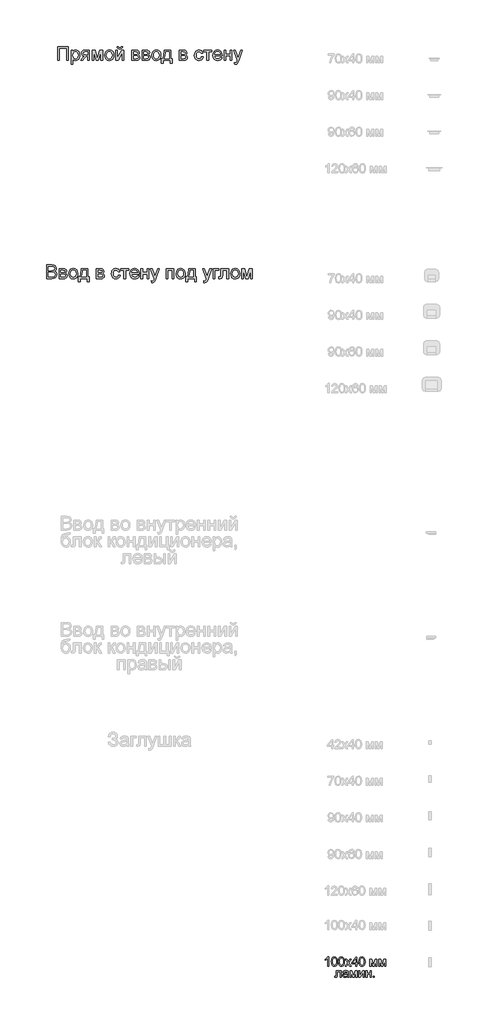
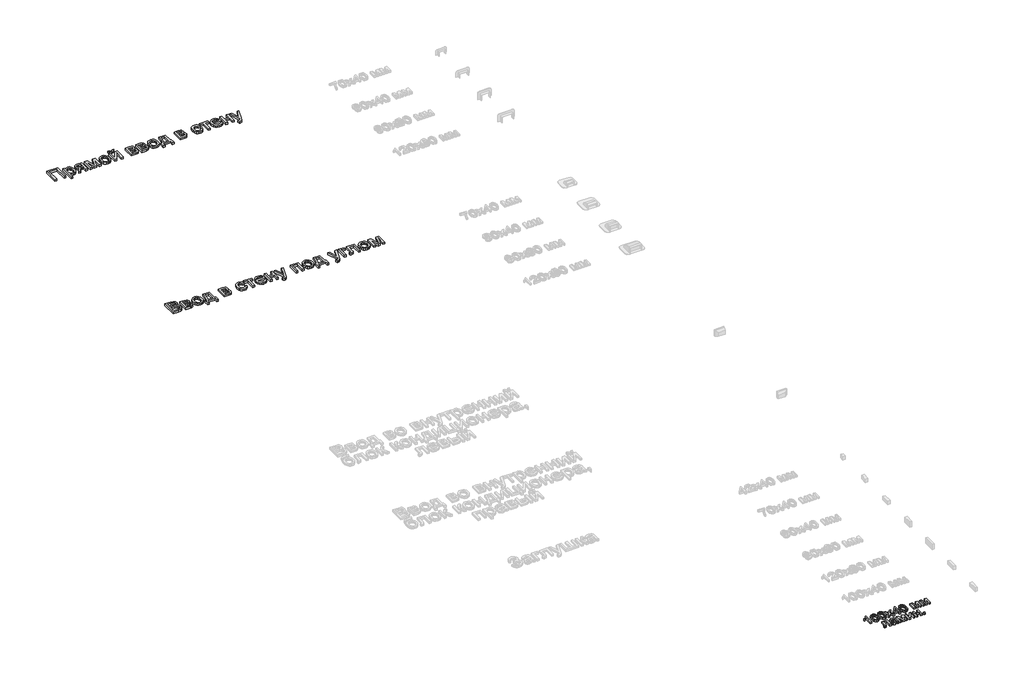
# One storey, part 19 of 21: 3 proxies.
"""IFC4 building model written with IfcOpenShell, lengths in millimetres."""

import ifcopenshell
import ifcopenshell.guid

model = None  # the IFC model being written
_history = None  # IfcOwnerHistory: only IFC2X3 demands one
_inside = {}  # id of a spatial element -> (the spatial element, [elements in it])
_under = {}  # id of a project, library or spatial element -> (it, [spatial elements below it])
_declared = {}  # id of a project -> (the project, [libraries it declares])
_typed = {}  # id of a type object -> (the type object, [elements of that type])
_made_of = {}  # id of a material, layer set ... -> (it, [elements and type objects made of it])


def new_model(schema):
    """Start an empty IFC model of exactly this schema.

    Asked for "IFC4X3", IfcOpenShell would pick the latest addendum, in which some entities
    have other attributes; the version numbers below select the first issue.
    IFC2X3 requires an IfcOwnerHistory on every rooted entity: one is made here for all.
    """
    global model, _history
    if schema == "IFC4X3":
        model = ifcopenshell.file(schema_version=(4, 3, 0, 0))
    else:
        model = ifcopenshell.file(schema=schema)
    _inside.clear()
    _under.clear()
    _declared.clear()
    _typed.clear()
    _made_of.clear()
    _history = None
    if model.schema == "IFC2X3":
        org = make("IfcOrganization", Name="unknown")
        user = make(
            "IfcPersonAndOrganization",
            ThePerson=make("IfcPerson", FamilyName="unknown"),
            TheOrganization=org,
        )
        app = make(
            "IfcApplication",
            ApplicationDeveloper=org,
            Version="unknown",
            ApplicationFullName="unknown",
            ApplicationIdentifier="unknown",
        )
        _history = make(
            "IfcOwnerHistory",
            OwningUser=user,
            OwningApplication=app,
            ChangeAction="ADDED",
            CreationDate=0,
        )
    return model


def make(cls, **values):
    """One entity of the class cls with the attributes given. An attribute that is None is left unset."""
    return model.create_entity(
        cls, **{name: value for name, value in values.items() if value is not None}
    )


def rooted(cls, **values):
    """An entity with a GlobalId (a new one), such as an element, a storey or a relation."""
    return make(cls, GlobalId=ifcopenshell.guid.new(), OwnerHistory=_history, **values)


def si_unit(unit_type, name, prefix=None):
    """IfcSIUnit, for example si_unit("LENGTHUNIT", "METRE", prefix="MILLI")."""
    return make("IfcSIUnit", UnitType=unit_type, Prefix=prefix, Name=name)


def assignment(units):
    """IfcUnitAssignment: the units of a project."""
    return None if units is None else make("IfcUnitAssignment", Units=units)


def point(xyz):
    """IfcCartesianPoint."""
    return None if xyz is None else make("IfcCartesianPoint", Coordinates=xyz)


def direction(xyz):
    """IfcDirection."""
    return None if xyz is None else make("IfcDirection", DirectionRatios=xyz)


def frame(location, z_axis=None, x_axis=None):
    """IfcAxis2Placement3D, a coordinate frame: its origin and axes. An axis left out is left unset."""
    return make(
        "IfcAxis2Placement3D",
        Location=point(location),
        Axis=direction(z_axis),
        RefDirection=direction(x_axis),
    )


def origin():
    """The frame at (0, 0, 0) with its axes left unset."""
    return frame((0.0, 0.0, 0.0))


def origin_with_axes():
    """The frame at (0, 0, 0) with the z axis (0, 0, 1) and the x axis (1, 0, 0) written out."""
    return frame((0.0, 0.0, 0.0), z_axis=(0.0, 0.0, 1.0), x_axis=(1.0, 0.0, 0.0))


def place(relative_to, where):
    """IfcLocalPlacement: puts the frame where relative to a parent placement (None: the world)."""
    return make(
        "IfcLocalPlacement", PlacementRelTo=relative_to, RelativePlacement=where
    )


def context(
    kind, dimensions, precision=None, world=None, true_north=None, identifier=None
):
    """IfcGeometricRepresentationContext, for example the 3D "Model" context."""
    return make(
        "IfcGeometricRepresentationContext",
        ContextIdentifier=identifier,
        ContextType=kind,
        CoordinateSpaceDimension=dimensions,
        Precision=precision,
        WorldCoordinateSystem=world,
        TrueNorth=true_north,
    )


def project(units=None, contexts=None):
    """IfcProject with its units and contexts."""
    return rooted(
        "IfcProject",
        Name="project",
        RepresentationContexts=contexts,
        UnitsInContext=assignment(units),
    )


def spatial(cls, under=None, at=None, **own):
    """A site, building, storey or space (cls), placed at a placement, below another one or the project."""
    s = rooted(cls, ObjectPlacement=at, **own)
    if under is not None:
        _under.setdefault(under.id(), (under, []))[1].append(s)
    return s


def polyline(points):
    """IfcPolyline through the points."""
    return make("IfcPolyline", Points=[point(p) for p in points])


def outline(outer, holes=None, kind="AREA"):
    """IfcArbitraryClosedProfileDef: a profile drawn as a closed curve; with holes, ...WithVoids."""
    if holes is None:
        return make("IfcArbitraryClosedProfileDef", ProfileType=kind, OuterCurve=outer)
    return make(
        "IfcArbitraryProfileDefWithVoids",
        ProfileType=kind,
        OuterCurve=outer,
        InnerCurves=holes,
    )


def extrude(swept, where, along, depth):
    """IfcExtrudedAreaSolid: the profile swept, set in the frame where, extruded along a direction by depth."""
    return make(
        "IfcExtrudedAreaSolid",
        SweptArea=swept,
        Position=where,
        ExtrudedDirection=direction(along),
        Depth=depth,
    )


def shape(context_of_items, identifier, shape_type, items):
    """IfcShapeRepresentation: the items that make up one representation, for example the "Body"."""
    return make(
        "IfcShapeRepresentation",
        ContextOfItems=context_of_items,
        RepresentationIdentifier=identifier,
        RepresentationType=shape_type,
        Items=items,
    )


def made_of(thing, what):
    """Note that an element or type object is made of a material, layer set ...; save() writes the relation."""
    if what is not None:
        _made_of.setdefault(what.id(), (what, []))[1].append(thing)
    return thing


def element(
    cls,
    number,
    at=None,
    inside=None,
    cuts=None,
    type_object=None,
    material=None,
    context=None,
    identifier="Body",
    shape_type=None,
    held_by="IfcProductDefinitionShape",
    body=None,
    shapes=None,
    **own,
):
    """One element of the class cls, such as IfcWall. Its Tag is "e" and its number.

    at: its placement. inside: the storey or other place that contains it. cuts: it is an
    opening in that element (IfcRelVoidsElement). A single representation is given by context,
    identifier, shape_type and body (its items); several are given by shapes. held_by: the class
    of the entity that holds the representations. save() writes the other relations.
    """
    e = rooted(cls, Tag="e%d" % number, ObjectPlacement=at, **own)
    if body is not None:
        shapes = [shape(context, identifier, shape_type, body)]
    if shapes is not None:
        e.Representation = make(held_by, Representations=shapes)
    if inside is not None:
        _inside.setdefault(inside.id(), (inside, []))[1].append(e)
    if cuts is not None:
        rooted(
            "IfcRelVoidsElement", RelatingBuildingElement=cuts, RelatedOpeningElement=e
        )
    if type_object is not None:
        _typed.setdefault(type_object.id(), (type_object, []))[1].append(e)
    return made_of(e, material)


def aggregate(whole, parts):
    """IfcRelAggregates: a whole, such as a stair, and the parts it consists of."""
    return rooted("IfcRelAggregates", RelatingObject=whole, RelatedObjects=parts)


def save(model, path):
    """Write the relations noted so far, then the file.

    IfcRelAggregates (storeys below a building ...), IfcRelContainedInSpatialStructure (elements
    in a storey), IfcRelDefinesByType, IfcRelAssociatesMaterial and IfcRelDeclares: one each for
    every whole, place, type object, material and project.
    """
    for whole, parts in _under.values():
        aggregate(whole, parts)
    for where, things in _inside.values():
        rooted(
            "IfcRelContainedInSpatialStructure",
            RelatedElements=things,
            RelatingStructure=where,
        )
    for kind, things in _typed.values():
        rooted("IfcRelDefinesByType", RelatedObjects=things, RelatingType=kind)
    for what, things in _made_of.values():
        rooted("IfcRelAssociatesMaterial", RelatedObjects=things, RelatingMaterial=what)
    for by, libraries in _declared.values():
        rooted("IfcRelDeclares", RelatingContext=by, RelatedDefinitions=libraries)
    model.write(path)


model = new_model("IFC4")

# Units and contexts
model_context = context("Model", 3, world=origin())
ifc_project = project(units=[si_unit("LENGTHUNIT", "METRE", prefix="MILLI")], contexts=[model_context])

# Site, building, storey
site = spatial("IfcSite", under=ifc_project)
building = spatial("IfcBuilding", under=site)
storey = spatial("IfcBuildingStorey", under=building, Name="Этаж 01", Elevation=0.0)

# Proxies
placement = place(None, origin())
element("IfcBuildingElementProxy", 1, Name="150 мм Arial", ObjectType="150 мм Arial", at=placement, inside=storey, context=model_context, shape_type="SweptSolid", body=[
    extrude(outline(polyline([(28871.880401, -2403.7985509), (28989.6026395, -2403.7985509), (28989.6026395, -2554.4830162), (28970.7670813, -2554.4830162), (28970.7670813, -2422.6341091), (28890.7159592, -2422.6341091), (28890.7159592, -2554.4830162), (28871.880401, -2554.4830162), (28871.880401, -2403.7985509)])), origin_with_axes(), (0.0, 0.0, 1.0), 20.0),
    extrude(outline(polyline([(29020.2104215, -2596.863022), (29020.2104215, -2443.824112), (29039.0459796, -2443.824112), (29039.0459796, -2462.2917882), (29052.0690023, -2446.6751975), (29069.6537616, -2441.4696672), (29082.3916757, -2443.2906831), (29093.5293031, -2448.7537307), (29102.5975943, -2457.5277163), (29109.1274997, -2469.2815461), (29114.3882122, -2498.3074355), (29112.9028887, -2514.4160684), (29108.446918, -2528.823247), (29101.1628545, -2540.7978059), (29091.1932524, -2549.6085797), (29079.581977, -2555.0302406), (29067.3728932, -2556.8374609), (29050.9837504, -2551.9998127), (29039.0459796, -2539.7677364), (29039.0459796, -2596.863022), (29020.2104215, -2596.863022)]), holes=[polyline([(29039.0459796, -2500.0364809), (29041.0831262, -2516.9222645), (29047.1945658, -2528.7312765), (29056.2122732, -2535.6842462), (29066.9682231, -2538.0019028), (29077.8989168, -2535.6014728), (29087.1465505, -2528.4001827), (29093.4511282, -2516.1589093), (29095.5526541, -2498.6385293), (29093.501712, -2481.8447162), (29087.3488856, -2469.8701573), (29078.3449738, -2462.6964584), (29067.7407752, -2460.3052254), (29057.09519, -2462.8482097), (29047.7463888, -2470.4771626), (29041.2210819, -2482.9529607), (29039.0459796, -2500.0364809)])]), origin_with_axes(), (0.0, 0.0, 1.0), 20.0),
    extrude(outline(polyline([(29220.3382268, -2443.824112), (29220.3382268, -2554.4830162), (29201.5026687, -2554.4830162), (29201.5026687, -2512.1030103), (29191.238761, -2512.1030103), (29177.2592452, -2514.4942433), (29164.125858, -2530.5706865), (29149.1162726, -2554.4830162), (29127.3376585, -2554.4830162), (29146.246793, -2524.2431162), (29154.5977143, -2513.3905973), (29162.286448, -2508.5713432), (29149.4105782, -2504.6258088), (29140.3606811, -2497.1302131), (29135.0079981, -2487.160611), (29133.2237704, -2475.7930574), (29135.6609886, -2462.8987935), (29142.9726433, -2452.6900681), (29154.901217, -2446.040601), (29171.1891923, -2443.824112), (29220.3382268, -2443.824112)]), holes=[polyline([(29201.5026687, -2462.6596702), (29176.670634, -2462.6596702), (29163.845348, -2463.7495206), (29156.565883, -2467.0190718), (29152.0593285, -2477.2277972), (29153.719396, -2484.4060946), (29158.6995986, -2489.3862971), (29182.2256521, -2493.2674522), (29201.5026687, -2493.2674522), (29201.5026687, -2462.6596702)])]), origin_with_axes(), (0.0, 0.0, 1.0), 20.0),
    extrude(outline(polyline([(29248.5915641, -2443.824112), (29281.0019678, -2443.824112), (29305.9811553, -2532.4100964), (29332.9101174, -2443.824112), (29363.9593578, -2443.824112), (29363.9593578, -2554.4830162), (29345.1237996, -2554.4830162), (29345.1237996, -2465.3819969), (29318.0476848, -2554.4830162), (29293.3260147, -2554.4830162), (29267.4271222, -2461.1145658), (29267.4271222, -2554.4830162), (29248.5915641, -2554.4830162), (29248.5915641, -2443.824112)])), origin_with_axes(), (0.0, 0.0, 1.0), 20.0),
    extrude(outline(polyline([(29387.5038055, -2499.1535641), (29391.5780985, -2472.4729224), (29403.8009778, -2453.7201377), (29418.9025337, -2444.5322848), (29436.9839338, -2441.4696672), (29456.7713866, -2445.199071), (29472.5765168, -2456.3872821), (29482.9369935, -2474.151384), (29486.3904858, -2497.6084597), (29484.8637755, -2516.6371559), (29480.2836446, -2531.1225095), (29472.7834505, -2541.9704298), (29462.4965502, -2550.0868263), (29450.2782694, -2555.1498023), (29436.9839338, -2556.8374609), (29416.9573577, -2553.1218528), (29401.1706216, -2541.9750283), (29390.9205095, -2523.838446), (29387.5038055, -2499.1535641)]), holes=[polyline([(29406.3393636, -2499.1167759), (29408.5190644, -2516.1635078), (29415.0581669, -2528.3082122), (29424.8990103, -2535.5784801), (29436.9839338, -2538.0019028), (29449.013675, -2535.5646846), (29458.8361243, -2528.2530299), (29465.3752268, -2515.9473772), (29467.5549276, -2498.5281647), (29465.3614312, -2481.9780734), (29458.780942, -2469.998916), (29448.9446972, -2462.728648), (29436.9839338, -2460.3052254), (29424.8990103, -2462.719451), (29415.0581669, -2469.9621278), (29408.5190644, -2482.079241), (29406.3393636, -2499.1167759)])]), origin_with_axes(), (0.0, 0.0, 1.0), 20.0),
    extrude(outline(polyline([(29507.5804887, -2443.824112), (29526.4160468, -2443.824112), (29526.4160468, -2528.2162417), (29572.6956018, -2443.824112), (29597.0493899, -2443.824112), (29597.0493899, -2554.4830162), (29578.2138318, -2554.4830162), (29578.2138318, -2470.6059213), (29532.2285824, -2554.4830162), (29507.5804887, -2554.4830162), (29507.5804887, -2443.824112)])), origin_with_axes(), (0.0, 0.0, 1.0), 20.0),
    extrude(outline(polyline([(29568.7960527, -2403.7985509), (29582.9227213, -2403.7985509), (29579.8830963, -2415.8604819), (29573.7808537, -2424.7494306), (29564.891905, -2430.2262738), (29553.4921617, -2432.0518882), (29541.1221296, -2430.2400693), (29531.5296066, -2424.8046129), (29524.97211, -2415.9294597), (29521.7071573, -2403.7985509), (29535.8338259, -2403.7985509), (29541.1313266, -2414.4119465), (29551.7999045, -2417.9252195), (29563.4985519, -2414.5223111), (29568.7960527, -2403.7985509)])), origin_with_axes(), (0.0, 0.0, 1.0), 20.0),
    extrude(outline(polyline([(29684.1638464, -2443.824112), (29725.6609354, -2443.824112), (29748.4144368, -2446.3441037), (29761.2167303, -2455.5779418), (29766.5694133, -2471.672779), (29763.3320517, -2484.750984), (29753.5831789, -2494.0767925), (29766.2383195, -2504.2855179), (29771.2783028, -2522.0358242), (29768.0869265, -2536.392419), (29760.4993604, -2546.4999769), (29748.4880132, -2552.4872563), (29732.0252939, -2554.4830162), (29684.1638464, -2554.4830162), (29684.1638464, -2443.824112)]), holes=[polyline([(29702.9994045, -2486.2041179), (29721.6142335, -2486.2041179), (29736.9733068, -2485.2476247), (29744.4413113, -2481.4216519), (29747.7338551, -2474.5054704), (29746.2899183, -2468.8860729), (29741.9581078, -2465.2716323), (29722.2028447, -2462.6596702), (29702.9994045, -2462.6596702), (29702.9994045, -2486.2041179)]), polyline([(29702.9994045, -2535.647458), (29726.1023938, -2535.647458), (29746.5934209, -2532.2445495), (29750.8332609, -2527.6046379), (29752.4427447, -2520.4907198), (29749.2237772, -2511.4224286), (29740.8360677, -2506.143322), (29724.2629838, -2505.039676), (29702.9994045, -2505.039676), (29702.9994045, -2535.647458)])]), origin_with_axes(), (0.0, 0.0, 1.0), 20.0),
    extrude(outline(polyline([(29794.8227505, -2443.824112), (29836.3198396, -2443.824112), (29859.073341, -2446.3441037), (29871.8756344, -2455.5779418), (29877.2283174, -2471.672779), (29873.9909559, -2484.750984), (29864.242083, -2494.0767925), (29876.8972236, -2504.2855179), (29881.937207, -2522.0358242), (29878.7458307, -2536.392419), (29871.1582645, -2546.4999769), (29859.1469174, -2552.4872563), (29842.6841981, -2554.4830162), (29794.8227505, -2554.4830162), (29794.8227505, -2443.824112)]), holes=[polyline([(29813.6583087, -2535.647458), (29836.761298, -2535.647458), (29857.2523251, -2532.2445495), (29861.4921651, -2527.6046379), (29863.1016488, -2520.4907198), (29859.8826814, -2511.4224286), (29851.4949719, -2506.143322), (29834.921888, -2505.039676), (29813.6583087, -2505.039676), (29813.6583087, -2535.647458)]), polyline([(29813.6583087, -2486.2041179), (29832.2731376, -2486.2041179), (29847.6322109, -2485.2476247), (29855.1002154, -2481.4216519), (29858.3927593, -2474.5054704), (29856.9488224, -2468.8860729), (29852.617012, -2465.2716323), (29832.8617488, -2462.6596702), (29813.6583087, -2462.6596702), (29813.6583087, -2486.2041179)])]), origin_with_axes(), (0.0, 0.0, 1.0), 20.0),
    extrude(outline(polyline([(29900.7727651, -2499.1535641), (29904.8470582, -2472.4729224), (29917.0699375, -2453.7201377), (29932.1714934, -2444.5322848), (29950.2528935, -2441.4696672), (29970.0403463, -2445.199071), (29985.8454765, -2456.3872821), (29996.2059532, -2474.151384), (29999.6594454, -2497.6084597), (29998.1327351, -2516.6371559), (29993.5526043, -2531.1225095), (29986.0524101, -2541.9704298), (29975.7655098, -2550.0868263), (29963.5472291, -2555.1498023), (29950.2528935, -2556.8374609), (29930.2263174, -2553.1218528), (29914.4395812, -2541.9750283), (29904.1894692, -2523.838446), (29900.7727651, -2499.1535641)]), holes=[polyline([(29919.6083233, -2499.1167759), (29921.7880241, -2516.1635078), (29928.3271266, -2528.3082122), (29938.1679699, -2535.5784801), (29950.2528935, -2538.0019028), (29962.2826347, -2535.5646846), (29972.105084, -2528.2530299), (29978.6441865, -2515.9473772), (29980.8238873, -2498.5281647), (29978.6303909, -2481.9780734), (29972.0499017, -2469.998916), (29962.2136568, -2462.728648), (29950.2528935, -2460.3052254), (29938.1679699, -2462.719451), (29928.3271266, -2469.9621278), (29921.7880241, -2482.079241), (29919.6083233, -2499.1167759)])]), origin_with_axes(), (0.0, 0.0, 1.0), 20.0),
    extrude(outline(polyline([(30037.3305617, -2443.824112), (30107.9639048, -2443.824112), (30107.9639048, -2535.647458), (30122.0905734, -2535.647458), (30122.0905734, -2585.0907982), (30103.2550153, -2585.0907982), (30103.2550153, -2554.4830162), (30025.5583379, -2554.4830162), (30025.5583379, -2585.0907982), (30006.7227797, -2585.0907982), (30006.7227797, -2535.647458), (30018.4950036, -2535.647458), (30027.0528585, -2520.1826186), (30033.0447365, -2499.7237812), (30037.3305617, -2443.824112)]), holes=[polyline([(30053.8116751, -2462.6596702), (30049.3970912, -2505.5731049), (30039.6850065, -2535.647458), (30089.1283467, -2535.647458), (30089.1283467, -2462.6596702), (30053.8116751, -2462.6596702)])]), origin_with_axes(), (0.0, 0.0, 1.0), 20.0),
    extrude(outline(polyline([(30202.1416956, -2443.824112), (30243.6387846, -2443.824112), (30266.392286, -2446.3441037), (30279.1945795, -2455.5779418), (30284.5472625, -2471.672779), (30281.3099009, -2484.750984), (30271.5610281, -2494.0767925), (30284.2161687, -2504.2855179), (30289.256152, -2522.0358242), (30286.0647757, -2536.392419), (30278.4772096, -2546.4999769), (30266.4658624, -2552.4872563), (30250.0031431, -2554.4830162), (30202.1416956, -2554.4830162), (30202.1416956, -2443.824112)]), holes=[polyline([(30220.9772537, -2486.2041179), (30239.5920827, -2486.2041179), (30254.951156, -2485.2476247), (30262.4191605, -2481.4216519), (30265.7117043, -2474.5054704), (30264.2677675, -2468.8860729), (30259.935957, -2465.2716323), (30240.1806939, -2462.6596702), (30220.9772537, -2462.6596702), (30220.9772537, -2486.2041179)]), polyline([(30220.9772537, -2535.647458), (30244.080243, -2535.647458), (30264.5712702, -2532.2445495), (30268.8111101, -2527.6046379), (30270.4205939, -2520.4907198), (30267.2016264, -2511.4224286), (30258.8139169, -2506.143322), (30242.240833, -2505.039676), (30220.9772537, -2505.039676), (30220.9772537, -2535.647458)])]), origin_with_axes(), (0.0, 0.0, 1.0), 20.0),
    extrude(outline(polyline([(30442.295062, -2514.4574551), (30461.1306202, -2516.8118999), (30455.8791047, -2533.5643262), (30446.0106702, -2546.2240654), (30432.4542187, -2554.184112), (30416.1386522, -2556.8374609), (30396.102879, -2553.1356484), (30380.4357045, -2542.0302106), (30370.3235482, -2524.0085914), (30366.9528294, -2499.5582343), (30368.3921677, -2482.7966109), (30372.7101826, -2468.2698706), (30379.975852, -2456.5390335), (30390.2581538, -2448.1651196), (30402.559208, -2443.1435303), (30415.8811348, -2441.4696672), (30431.7966296, -2443.7689297), (30444.5207481, -2450.6667171), (30453.6488201, -2461.7951475), (30458.7761754, -2476.7863388), (30439.9406173, -2479.1407835), (30431.2034199, -2465.032509), (30416.0282876, -2460.3052254), (30403.8559921, -2462.632079), (30394.1944912, -2469.6126399), (30387.8899135, -2481.623987), (30385.7883876, -2499.0431995), (30387.8439282, -2516.6969367), (30394.0105502, -2528.7496706), (30403.4973071, -2535.6888447), (30415.5132528, -2538.0019028), (30425.2667242, -2536.5579659), (30433.263559, -2532.2261554), (30439.0806931, -2524.8961067), (30442.295062, -2514.4574551)])), origin_with_axes(), (0.0, 0.0, 1.0), 20.0),
    extrude(outline(polyline([(30468.1939545, -2443.824112), (30557.6628557, -2443.824112), (30557.6628557, -2462.6596702), (30522.3461842, -2462.6596702), (30522.3461842, -2554.4830162), (30503.510626, -2554.4830162), (30503.510626, -2462.6596702), (30468.1939545, -2462.6596702), (30468.1939545, -2443.824112)])), origin_with_axes(), (0.0, 0.0, 1.0), 20.0),
    extrude(outline(polyline([(30651.6199173, -2521.5207894), (30670.0875934, -2523.8752342), (30663.4335278, -2537.7903706), (30652.8155338, -2548.192234), (30638.4727345, -2554.6761542), (30620.6442533, -2556.8374609), (30598.5437424, -2553.1080572), (30581.5383972, -2541.919846), (30570.6950754, -2523.9993943), (30567.0806348, -2500.0732691), (30570.7318636, -2475.3424019), (30581.68555, -2456.8471346), (30598.460969, -2445.3140341), (30619.5773955, -2441.4696672), (30640.036233, -2445.304837), (30656.3839891, -2456.8103464), (30667.1031508, -2475.2688255), (30670.6762046, -2499.9629045), (30670.56584, -2505.039676), (30585.9161929, -2505.039676), (30589.1765471, -2519.1387535), (30596.7503177, -2529.5038287), (30607.6810115, -2535.8773843), (30621.0121353, -2538.0019028), (30639.4798114, -2534.0655654), (30651.6199173, -2521.5207894)]), holes=[polyline([(30585.9161929, -2486.2041179), (30651.8406465, -2486.2041179), (30649.2930637, -2476.2529099), (30644.2990656, -2469.1343933), (30633.317788, -2462.5125174), (30619.5038191, -2460.3052254), (30606.8072917, -2462.0664604), (30596.3088593, -2467.3501656), (30589.0110002, -2475.5861238), (30585.9161929, -2486.2041179)])]), origin_with_axes(), (0.0, 0.0, 1.0), 20.0),
    extrude(outline(polyline([(30689.5117628, -2443.824112), (30708.3473209, -2443.824112), (30708.3473209, -2486.2041179), (30757.7906611, -2486.2041179), (30757.7906611, -2443.824112), (30776.6262192, -2443.824112), (30776.6262192, -2554.4830162), (30757.7906611, -2554.4830162), (30757.7906611, -2505.039676), (30708.3473209, -2505.039676), (30708.3473209, -2554.4830162), (30689.5117628, -2554.4830162), (30689.5117628, -2443.824112)])), origin_with_axes(), (0.0, 0.0, 1.0), 20.0),
    extrude(outline(polyline([(30804.8795565, -2596.863022), (30802.5251117, -2578.7264396), (30812.0900436, -2580.3819086), (30821.0295761, -2578.3033753), (30826.5110178, -2572.5092339), (30831.6613657, -2558.6400827), (30833.1328937, -2554.078346), (30793.1073326, -2443.824112), (30812.9729604, -2443.824112), (30834.1997515, -2505.2604052), (30841.5941796, -2529.8349225), (30848.9886077, -2508.1298848), (30870.80401, -2443.824112), (30890.5224849, -2443.824112), (30852.0052401, -2557.1317665), (30841.9988498, -2581.7062838), (30831.0727545, -2594.9868238), (30816.3942629, -2599.2174668), (30804.8795565, -2596.863022)])), origin_with_axes(), (0.0, 0.0, 1.0), 20.0),
])
element("IfcBuildingElementProxy", 2, Name="150 мм Arial", ObjectType="150 мм Arial", at=placement, inside=storey, context=model_context, shape_type="SweptSolid", body=[
    extrude(outline(polyline([(28751.8037178, -4938.5806907), (28751.8037178, -4787.8962255), (28809.3036736, -4787.8962255), (28837.4650404, -4792.3292035), (28846.9288047, -4797.9531995), (28854.0933065, -4805.9592314), (28860.1081772, -4825.236248), (28855.0497997, -4842.8394015), (28839.7643028, -4856.1751238), (28850.4374792, -4861.748536), (28858.3239495, -4870.228216), (28863.1937874, -4881.0531437), (28864.8170667, -4893.6622991), (28860.3840887, -4913.9142029), (28849.4028111, -4928.3351771), (28833.0136682, -4935.9871226), (28808.8622152, -4938.5806907), (28751.8037178, -4938.5806907)]), holes=[polyline([(28770.6392759, -4849.1117895), (28805.0362425, -4849.1117895), (28825.1225994, -4847.4931087), (28837.207523, -4840.5217449), (28841.272619, -4828.2528803), (28837.4834345, -4815.9656217), (28826.6309156, -4808.6999523), (28802.4242803, -4806.7317836), (28770.6392759, -4806.7317836), (28770.6392759, -4849.1117895)]), polyline([(28770.6392759, -4919.7451325), (28809.2668854, -4919.7451325), (28823.2464013, -4919.0093686), (28835.0738074, -4914.9074843), (28842.9096939, -4906.5381689), (28845.9815086, -4893.8462401), (28842.376265, -4879.2045367), (28830.6960117, -4870.4673393), (28807.4274755, -4867.9473476), (28770.6392759, -4867.9473476), (28770.6392759, -4919.7451325)])]), origin_with_axes(), (0.0, 0.0, 1.0), 20.0),
    extrude(outline(polyline([(28888.3615144, -4827.9217865), (28929.8586035, -4827.9217865), (28952.6121049, -4830.4417782), (28965.4143983, -4839.6756163), (28970.7670813, -4855.7704536), (28967.5297198, -4868.8486585), (28957.7808469, -4878.1744671), (28970.4359875, -4888.3831925), (28975.4759709, -4906.1334987), (28972.2845945, -4920.4900936), (28964.6970284, -4930.5976514), (28952.6856813, -4936.5849309), (28936.222962, -4938.5806907), (28888.3615144, -4938.5806907), (28888.3615144, -4827.9217865)]), holes=[polyline([(28907.1970725, -4870.3017924), (28925.8119015, -4870.3017924), (28941.1709748, -4869.3452992), (28948.6389793, -4865.5193265), (28951.9315232, -4858.6031449), (28950.4875863, -4852.9837475), (28946.1557758, -4849.3693069), (28926.4005127, -4846.7573447), (28907.1970725, -4846.7573447), (28907.1970725, -4870.3017924)]), polyline([(28907.1970725, -4919.7451325), (28930.3000618, -4919.7451325), (28950.791089, -4916.3422241), (28955.030929, -4911.7023124), (28956.6404127, -4904.5883943), (28953.4214452, -4895.5201032), (28945.0337358, -4890.2409965), (28928.4606519, -4889.1373505), (28907.1970725, -4889.1373505), (28907.1970725, -4919.7451325)])]), origin_with_axes(), (0.0, 0.0, 1.0), 20.0),
    extrude(outline(polyline([(28994.311529, -4883.2512386), (28998.3858221, -4856.5705969), (29010.6087014, -4837.8178122), (29025.7102573, -4828.6299594), (29043.7916574, -4825.5673418), (29063.5791102, -4829.2967455), (29079.3842404, -4840.4849567), (29089.7447171, -4858.2490585), (29093.1982093, -4881.7061342), (29091.671499, -4900.7348304), (29087.0913682, -4915.220184), (29079.591174, -4926.0681043), (29069.3042737, -4934.1845009), (29057.085993, -4939.2474768), (29043.7916574, -4940.9351355), (29023.7650812, -4937.2195273), (29007.9783451, -4926.0727029), (28997.728233, -4907.9361205), (28994.311529, -4883.2512386)]), holes=[polyline([(29013.1470872, -4883.2144504), (29015.326788, -4900.2611824), (29021.8658904, -4912.4058867), (29031.7067338, -4919.6761547), (29043.7916574, -4922.0995773), (29055.8213986, -4919.6623591), (29065.6438479, -4912.3507044), (29072.1829503, -4900.0450517), (29074.3626512, -4882.6258392), (29072.1691548, -4866.075748), (29065.5886656, -4854.0965905), (29055.7524207, -4846.8263226), (29043.7916574, -4844.4028999), (29031.7067338, -4846.8171255), (29021.8658904, -4854.0598023), (29015.326788, -4866.1769155), (29013.1470872, -4883.2144504)])]), origin_with_axes(), (0.0, 0.0, 1.0), 20.0),
    extrude(outline(polyline([(29130.8693256, -4827.9217865), (29201.5026687, -4827.9217865), (29201.5026687, -4919.7451325), (29215.6293373, -4919.7451325), (29215.6293373, -4969.1884727), (29196.7937792, -4969.1884727), (29196.7937792, -4938.5806907), (29119.0971018, -4938.5806907), (29119.0971018, -4969.1884727), (29100.2615436, -4969.1884727), (29100.2615436, -4919.7451325), (29112.0337675, -4919.7451325), (29120.5916224, -4904.2802932), (29126.5835004, -4883.8214557), (29130.8693256, -4827.9217865)]), holes=[polyline([(29147.350439, -4846.7573447), (29142.9358551, -4889.6707794), (29133.2237704, -4919.7451325), (29182.6671105, -4919.7451325), (29182.6671105, -4846.7573447), (29147.350439, -4846.7573447)])]), origin_with_axes(), (0.0, 0.0, 1.0), 20.0),
    extrude(outline(polyline([(29295.6804595, -4827.9217865), (29337.1775485, -4827.9217865), (29359.9310499, -4830.4417782), (29372.7333433, -4839.6756163), (29378.0860264, -4855.7704536), (29374.8486648, -4868.8486585), (29365.0997919, -4878.1744671), (29377.7549326, -4888.3831925), (29382.7949159, -4906.1334987), (29379.6035396, -4920.4900936), (29372.0159735, -4930.5976514), (29360.0046263, -4936.5849309), (29343.541907, -4938.5806907), (29295.6804595, -4938.5806907), (29295.6804595, -4827.9217865)]), holes=[polyline([(29314.5160176, -4870.3017924), (29333.1308466, -4870.3017924), (29348.4899199, -4869.3452992), (29355.9579244, -4865.5193265), (29359.2504682, -4858.6031449), (29357.8065314, -4852.9837475), (29353.4747209, -4849.3693069), (29333.7194578, -4846.7573447), (29314.5160176, -4846.7573447), (29314.5160176, -4870.3017924)]), polyline([(29314.5160176, -4919.7451325), (29337.6190069, -4919.7451325), (29358.110034, -4916.3422241), (29362.349874, -4911.7023124), (29363.9593578, -4904.5883943), (29360.7403903, -4895.5201032), (29352.3526808, -4890.2409965), (29335.7795969, -4889.1373505), (29314.5160176, -4889.1373505), (29314.5160176, -4919.7451325)])]), origin_with_axes(), (0.0, 0.0, 1.0), 20.0),
    extrude(outline(polyline([(29535.8338259, -4898.5551296), (29554.6693841, -4900.9095744), (29549.4178686, -4917.6620007), (29539.5494341, -4930.3217399), (29525.9929825, -4938.2817866), (29509.6774161, -4940.9351355), (29489.6416429, -4937.2333229), (29473.9744684, -4926.1278852), (29463.8623121, -4908.1062659), (29460.4915933, -4883.6559088), (29461.9309316, -4866.8942854), (29466.2489465, -4852.3675451), (29473.5146159, -4840.636708), (29483.7969177, -4832.2627941), (29496.0979719, -4827.2412049), (29509.4198987, -4825.5673418), (29525.3353935, -4827.8666042), (29538.059512, -4834.7643917), (29547.187584, -4845.892822), (29552.3149393, -4860.8840133), (29533.4793811, -4863.2384581), (29524.7421838, -4849.1301836), (29509.5670515, -4844.4028999), (29497.3947559, -4846.7297536), (29487.733255, -4853.7103144), (29481.4286773, -4865.7216616), (29479.3271514, -4883.140874), (29481.3826921, -4900.7946113), (29487.549314, -4912.8473451), (29497.036071, -4919.7865193), (29509.0520167, -4922.0995773), (29518.8054881, -4920.6556405), (29526.8023229, -4916.32383), (29532.619457, -4908.9937812), (29535.8338259, -4898.5551296)])), origin_with_axes(), (0.0, 0.0, 1.0), 20.0),
    extrude(outline(polyline([(29561.7327184, -4827.9217865), (29651.2016196, -4827.9217865), (29651.2016196, -4846.7573447), (29615.8849481, -4846.7573447), (29615.8849481, -4938.5806907), (29597.0493899, -4938.5806907), (29597.0493899, -4846.7573447), (29561.7327184, -4846.7573447), (29561.7327184, -4827.9217865)])), origin_with_axes(), (0.0, 0.0, 1.0), 20.0),
    extrude(outline(polyline([(29745.1586812, -4905.6184639), (29763.6263573, -4907.9729087), (29756.9722917, -4921.8880452), (29746.3542976, -4932.2899086), (29732.0114984, -4938.7738287), (29714.1830172, -4940.9351355), (29692.0825063, -4937.2057317), (29675.0771611, -4926.0175206), (29664.2338393, -4908.0970689), (29660.6193987, -4884.1709436), (29664.2706275, -4859.4400765), (29675.2243139, -4840.9448092), (29691.9997329, -4829.4117086), (29713.1161594, -4825.5673418), (29733.5749968, -4829.4025116), (29749.922753, -4840.908021), (29760.6419146, -4859.3665001), (29764.2149685, -4884.060579), (29764.1046039, -4889.1373505), (29679.4549568, -4889.1373505), (29682.715311, -4903.236428), (29690.2890816, -4913.6015032), (29701.2197754, -4919.9750588), (29714.5508992, -4922.0995773), (29733.0185753, -4918.16324), (29745.1586812, -4905.6184639)]), holes=[polyline([(29679.4549568, -4870.3017924), (29745.3794104, -4870.3017924), (29742.8318275, -4860.3505844), (29737.8378295, -4853.2320678), (29726.8565519, -4846.6101919), (29713.042583, -4844.4028999), (29700.3460556, -4846.164135), (29689.8476232, -4851.4478401), (29682.5497641, -4859.6837983), (29679.4549568, -4870.3017924)])]), origin_with_axes(), (0.0, 0.0, 1.0), 20.0),
    extrude(outline(polyline([(29783.0505267, -4827.9217865), (29801.8860848, -4827.9217865), (29801.8860848, -4870.3017924), (29851.329425, -4870.3017924), (29851.329425, -4827.9217865), (29870.1649831, -4827.9217865), (29870.1649831, -4938.5806907), (29851.329425, -4938.5806907), (29851.329425, -4889.1373505), (29801.8860848, -4889.1373505), (29801.8860848, -4938.5806907), (29783.0505267, -4938.5806907), (29783.0505267, -4827.9217865)])), origin_with_axes(), (0.0, 0.0, 1.0), 20.0),
    extrude(outline(polyline([(29898.4183204, -4980.9606965), (29896.0638756, -4962.8241142), (29905.6288075, -4964.4795832), (29914.5683399, -4962.4010499), (29920.0497817, -4956.6069085), (29925.2001296, -4942.7377572), (29926.6716576, -4938.1760205), (29886.6460965, -4827.9217865), (29906.5117242, -4827.9217865), (29927.7385154, -4889.3580797), (29935.1329435, -4913.932597), (29942.5273716, -4892.2275593), (29964.3427739, -4827.9217865), (29984.0612488, -4827.9217865), (29945.5440039, -4941.2294411), (29935.5376137, -4965.8039583), (29924.6115184, -4979.0844984), (29909.9330268, -4983.3151413), (29898.4183204, -4980.9606965)])), origin_with_axes(), (0.0, 0.0, 1.0), 20.0),
    extrude(outline(polyline([(30058.5205647, -4827.9217865), (30143.2805763, -4827.9217865), (30143.2805763, -4938.5806907), (30124.4450182, -4938.5806907), (30124.4450182, -4846.7573447), (30077.3561228, -4846.7573447), (30077.3561228, -4938.5806907), (30058.5205647, -4938.5806907), (30058.5205647, -4827.9217865)])), origin_with_axes(), (0.0, 0.0, 1.0), 20.0),
    extrude(outline(polyline([(30166.825024, -4883.2512386), (30170.8993171, -4856.5705969), (30183.1221964, -4837.8178122), (30198.2237523, -4828.6299594), (30216.3051524, -4825.5673418), (30236.0926052, -4829.2967455), (30251.8977354, -4840.4849567), (30262.2582121, -4858.2490585), (30265.7117043, -4881.7061342), (30264.1849941, -4900.7348304), (30259.6048632, -4915.220184), (30252.104669, -4926.0681043), (30241.8177688, -4934.1845009), (30229.599488, -4939.2474768), (30216.3051524, -4940.9351355), (30196.2785763, -4937.2195273), (30180.4918402, -4926.0727029), (30170.2417281, -4907.9361205), (30166.825024, -4883.2512386)]), holes=[polyline([(30185.6605822, -4883.2144504), (30187.840283, -4900.2611824), (30194.3793855, -4912.4058867), (30204.2202288, -4919.6761547), (30216.3051524, -4922.0995773), (30228.3348936, -4919.6623591), (30238.1573429, -4912.3507044), (30244.6964454, -4900.0450517), (30246.8761462, -4882.6258392), (30244.6826498, -4866.075748), (30238.1021606, -4854.0965905), (30228.2659158, -4846.8263226), (30216.3051524, -4844.4028999), (30204.2202288, -4846.8171255), (30194.3793855, -4854.0598023), (30187.840283, -4866.1769155), (30185.6605822, -4883.2144504)])]), origin_with_axes(), (0.0, 0.0, 1.0), 20.0),
    extrude(outline(polyline([(30303.3828206, -4827.9217865), (30374.0161637, -4827.9217865), (30374.0161637, -4919.7451325), (30388.1428323, -4919.7451325), (30388.1428323, -4969.1884727), (30369.3072742, -4969.1884727), (30369.3072742, -4938.5806907), (30291.6105968, -4938.5806907), (30291.6105968, -4969.1884727), (30272.7750386, -4969.1884727), (30272.7750386, -4919.7451325), (30284.5472625, -4919.7451325), (30293.1051174, -4904.2802932), (30299.0969954, -4883.8214557), (30303.3828206, -4827.9217865)]), holes=[polyline([(30319.863934, -4846.7573447), (30315.4493501, -4889.6707794), (30305.7372654, -4919.7451325), (30355.1806056, -4919.7451325), (30355.1806056, -4846.7573447), (30319.863934, -4846.7573447)])]), origin_with_axes(), (0.0, 0.0, 1.0), 20.0),
    extrude(outline(polyline([(30468.1939545, -4980.9606965), (30465.8395097, -4962.8241142), (30475.4044416, -4964.4795832), (30484.3439741, -4962.4010499), (30489.8254158, -4956.6069085), (30494.9757637, -4942.7377572), (30496.4472917, -4938.1760205), (30456.4217306, -4827.9217865), (30476.2873584, -4827.9217865), (30497.5141495, -4889.3580797), (30504.9085776, -4913.932597), (30512.3030057, -4892.2275593), (30534.118408, -4827.9217865), (30553.836883, -4827.9217865), (30515.3196381, -4941.2294411), (30505.3132478, -4965.8039583), (30494.3871525, -4979.0844984), (30479.7086609, -4983.3151413), (30468.1939545, -4980.9606965)])), origin_with_axes(), (0.0, 0.0, 1.0), 20.0),
    extrude(outline(polyline([(30569.4350796, -4827.9217865), (30630.6506436, -4827.9217865), (30630.6506436, -4846.7573447), (30588.2706377, -4846.7573447), (30588.2706377, -4938.5806907), (30569.4350796, -4938.5806907), (30569.4350796, -4827.9217865)])), origin_with_axes(), (0.0, 0.0, 1.0), 20.0),
    extrude(outline(polyline([(30654.1950912, -4827.9217865), (30738.9551029, -4827.9217865), (30738.9551029, -4938.4703261), (30720.1195448, -4938.4703261), (30720.1195448, -4846.7573447), (30673.0306494, -4846.7573447), (30673.0306494, -4899.548411), (30671.7614565, -4923.9021991), (30664.7900927, -4934.1845009), (30648.3089793, -4938.5806907), (30633.0050883, -4937.6241975), (30633.0050883, -4919.7451325), (30641.429586, -4919.7451325), (30649.9460542, -4918.5863043), (30653.3489627, -4914.9074843), (30654.1950912, -4898.4815532), (30654.1950912, -4827.9217865)])), origin_with_axes(), (0.0, 0.0, 1.0), 20.0),
    extrude(outline(polyline([(30762.4995506, -4883.2512386), (30766.5738437, -4856.5705969), (30778.796723, -4837.8178122), (30793.8982789, -4828.6299594), (30811.979679, -4825.5673418), (30831.7671318, -4829.2967455), (30847.572262, -4840.4849567), (30857.9327387, -4858.2490585), (30861.3862309, -4881.7061342), (30859.8595206, -4900.7348304), (30855.2793898, -4915.220184), (30847.7791956, -4926.0681043), (30837.4922953, -4934.1845009), (30825.2740146, -4939.2474768), (30811.979679, -4940.9351355), (30791.9531029, -4937.2195273), (30776.1663667, -4926.0727029), (30765.9162547, -4907.9361205), (30762.4995506, -4883.2512386)]), holes=[polyline([(30781.3351088, -4883.2144504), (30783.5148096, -4900.2611824), (30790.0539121, -4912.4058867), (30799.8947554, -4919.6761547), (30811.979679, -4922.0995773), (30824.0094202, -4919.6623591), (30833.8318695, -4912.3507044), (30840.370972, -4900.0450517), (30842.5506728, -4882.6258392), (30840.3571764, -4866.075748), (30833.7766872, -4854.0965905), (30823.9404423, -4846.8263226), (30811.979679, -4844.4028999), (30799.8947554, -4846.8171255), (30790.0539121, -4854.0598023), (30783.5148096, -4866.1769155), (30781.3351088, -4883.2144504)])]), origin_with_axes(), (0.0, 0.0, 1.0), 20.0),
    extrude(outline(polyline([(30882.5762339, -4827.9217865), (30914.9866376, -4827.9217865), (30939.9658251, -4916.507771), (30966.8947871, -4827.9217865), (30997.9440275, -4827.9217865), (30997.9440275, -4938.5806907), (30979.1084694, -4938.5806907), (30979.1084694, -4849.4796715), (30952.0323545, -4938.5806907), (30927.3106845, -4938.5806907), (30901.411792, -4845.2122403), (30901.411792, -4938.5806907), (30882.5762339, -4938.5806907), (30882.5762339, -4827.9217865)])), origin_with_axes(), (0.0, 0.0, 1.0), 20.0),
])
element("IfcBuildingElementProxy", 3, Name="100 мм Arial", ObjectType="100 мм Arial", at=placement, inside=storey, context=model_context, shape_type="SweptSolid", body=[
    extrude(outline(polyline([(31832.0851897, -12444.3910791), (31819.528151, -12444.3910791), (31819.528151, -12366.1057905), (31807.6332998, -12374.5793391), (31794.4140734, -12380.9191722), (31794.4140734, -12369.0488465), (31812.8204359, -12357.3011481), (31823.9917859, -12343.9347689), (31832.0851897, -12343.9347689), (31832.0851897, -12444.3910791)])), origin_with_axes(), (0.0, 0.0, 1.0), 20.0),
    extrude(outline(polyline([(31861.9081568, -12394.9722644), (31865.5992395, -12366.0690023), (31876.562123, -12349.4039479), (31894.8703836, -12343.9347689), (31909.5366125, -12347.1721305), (31919.6656301, -12356.5040704), (31925.551742, -12371.366503), (31927.8326104, -12394.9722644), (31924.1783159, -12423.7528992), (31913.2522206, -12440.4547417), (31905.020861, -12444.5842171), (31894.8703836, -12445.9607089), (31881.8228355, -12443.569476), (31871.9145471, -12436.3957771), (31864.4097544, -12419.4057602), (31861.9081568, -12394.9722644)]), holes=[polyline([(31874.4651956, -12394.9477389), (31875.9367236, -12414.6999364), (31880.3513075, -12426.1318694), (31886.9241325, -12431.58572), (31894.8703836, -12433.4036702), (31902.8166347, -12431.5795886), (31909.3894597, -12426.1073439), (31913.8040436, -12414.6692796), (31915.2755716, -12394.9477389), (31913.8530945, -12375.6400656), (31909.5856634, -12364.1192277), (31903.0251012, -12358.3986627), (31894.7232308, -12356.4918077), (31886.8628188, -12358.1718022), (31880.5475112, -12363.2117855), (31875.9857745, -12375.4499932), (31874.4651956, -12394.9477389)])]), origin_with_axes(), (0.0, 0.0, 1.0), 20.0),
    extrude(outline(polyline([(31938.8200193, -12394.9722644), (31942.511102, -12366.0690023), (31953.4739854, -12349.4039479), (31971.7822461, -12343.9347689), (31986.4484749, -12347.1721305), (31996.5774925, -12356.5040704), (32002.4636044, -12371.366503), (32004.7444728, -12394.9722644), (32001.0901783, -12423.7528992), (31990.1640831, -12440.4547417), (31981.9327234, -12444.5842171), (31971.7822461, -12445.9607089), (31958.734698, -12443.569476), (31948.8264096, -12436.3957771), (31941.3216168, -12419.4057602), (31938.8200193, -12394.9722644)]), holes=[polyline([(31951.3770581, -12394.9477389), (31952.848586, -12414.6999364), (31957.26317, -12426.1318694), (31963.835995, -12431.58572), (31971.7822461, -12433.4036702), (31979.7284971, -12431.5795886), (31986.3013221, -12426.1073439), (31990.7159061, -12414.6692796), (31992.187434, -12394.9477389), (31990.764957, -12375.6400656), (31986.4975259, -12364.1192277), (31979.9369636, -12358.3986627), (31971.6350933, -12356.4918077), (31963.7746813, -12358.1718022), (31957.4593737, -12363.2117855), (31952.897637, -12375.4499932), (31951.3770581, -12394.9477389)])]), origin_with_axes(), (0.0, 0.0, 1.0), 20.0),
    extrude(outline(polyline([(32011.0229922, -12444.3910791), (32037.8538524, -12407.308574), (32012.592622, -12370.6184763), (32027.7003093, -12370.6184763), (32039.8894661, -12388.2768121), (32045.5793743, -12396.6154706), (32050.508993, -12389.797391), (32064.390407, -12370.6184763), (32079.4980942, -12370.6184763), (32052.9615397, -12407.308574), (32078.5170756, -12444.3910791), (32063.4093883, -12444.3910791), (32048.0319209, -12422.0974302), (32045.2114923, -12418.0262028), (32026.1306795, -12444.3910791), (32011.0229922, -12444.3910791)])), origin_with_axes(), (0.0, 0.0, 1.0), 20.0),
    extrude(outline(polyline([(32127.1756008, -12444.3910791), (32127.1756008, -12420.8466314), (32081.6563353, -12420.8466314), (32081.6563353, -12408.2895926), (32130.3148605, -12345.5043988), (32139.7326396, -12345.5043988), (32139.7326396, -12408.2895926), (32152.2896784, -12408.2895926), (32152.2896784, -12420.8466314), (32139.7326396, -12420.8466314), (32139.7326396, -12444.3910791), (32127.1756008, -12444.3910791)]), holes=[polyline([(32127.1756008, -12408.2895926), (32127.1756008, -12369.4903049), (32097.1073791, -12408.2895926), (32127.1756008, -12408.2895926)])]), origin_with_axes(), (0.0, 0.0, 1.0), 20.0),
    extrude(outline(polyline([(32163.2770873, -12394.9722644), (32166.96817, -12366.0690023), (32177.9310534, -12349.4039479), (32196.239314, -12343.9347689), (32210.9055429, -12347.1721305), (32221.0345605, -12356.5040704), (32226.9206724, -12371.366503), (32229.2015408, -12394.9722644), (32225.5472463, -12423.7528992), (32214.6211511, -12440.4547417), (32206.3897914, -12444.5842171), (32196.239314, -12445.9607089), (32183.1917659, -12443.569476), (32173.2834775, -12436.3957771), (32165.7786848, -12419.4057602), (32163.2770873, -12394.9722644)]), holes=[polyline([(32175.834126, -12394.9477389), (32177.305654, -12414.6999364), (32181.720238, -12426.1318694), (32188.2930629, -12431.58572), (32196.239314, -12433.4036702), (32204.1855651, -12431.5795886), (32210.7583901, -12426.1073439), (32215.1729741, -12414.6692796), (32216.644502, -12394.9477389), (32215.222025, -12375.6400656), (32210.9545938, -12364.1192277), (32204.3940316, -12358.3986627), (32196.0921612, -12356.4918077), (32188.2317493, -12358.1718022), (32181.9164417, -12363.2117855), (32177.354705, -12375.4499932), (32175.834126, -12394.9477389)])]), origin_with_axes(), (0.0, 0.0, 1.0), 20.0),
    extrude(outline(polyline([(32282.5689556, -12370.6184763), (32304.1758914, -12370.6184763), (32320.8286831, -12429.6757993), (32338.7813244, -12370.6184763), (32359.480818, -12370.6184763), (32359.480818, -12444.3910791), (32346.9237793, -12444.3910791), (32346.9237793, -12384.9903996), (32328.873036, -12444.3910791), (32312.3919227, -12444.3910791), (32295.1259943, -12382.1454455), (32295.1259943, -12444.3910791), (32282.5689556, -12444.3910791), (32282.5689556, -12370.6184763)])), origin_with_axes(), (0.0, 0.0, 1.0), 20.0),
    extrude(outline(polyline([(32378.3163762, -12370.6184763), (32399.923312, -12370.6184763), (32416.5761037, -12429.6757993), (32434.528745, -12370.6184763), (32455.2282386, -12370.6184763), (32455.2282386, -12444.3910791), (32442.6711999, -12444.3910791), (32442.6711999, -12384.9903996), (32424.6204566, -12444.3910791), (32408.1393433, -12444.3910791), (32390.873415, -12382.1454455), (32390.873415, -12444.3910791), (32378.3163762, -12444.3910791), (32378.3163762, -12370.6184763)])), origin_with_axes(), (0.0, 0.0, 1.0), 20.0),
    extrude(outline(polyline([(31912.9211268, -12492.5932942), (31969.4278013, -12492.5932942), (31969.4278013, -12566.2923205), (31956.8707625, -12566.2923205), (31956.8707625, -12505.1503329), (31925.4781656, -12505.1503329), (31925.4781656, -12540.3443771), (31924.632037, -12556.5802359), (31919.9844611, -12563.4351037), (31908.9970522, -12566.3658969), (31898.7944582, -12565.7282348), (31898.7944582, -12553.8088582), (31904.41079, -12553.8088582), (31910.0884355, -12553.036306), (31912.3570411, -12550.5837593), (31912.9211268, -12539.6331386), (31912.9211268, -12492.5932942)])), origin_with_axes(), (0.0, 0.0, 1.0), 20.0),
    extrude(outline(polyline([(32035.3522548, -12556.9481179), (32023.1753608, -12565.4584547), (32009.7231425, -12567.9355268), (31999.2293086, -12566.4456047), (31991.4884583, -12561.9758385), (31986.7151894, -12555.1884156), (31985.1240997, -12546.7455239), (31987.5275954, -12536.81271), (31993.842903, -12529.6022229), (32002.6352827, -12525.4819445), (32013.5000643, -12523.5934836), (32035.2786784, -12519.2770016), (32035.3522548, -12516.4810984), (32031.8941641, -12507.2104721), (32018.0127501, -12503.5807031), (32005.3085585, -12505.9964615), (31999.2507684, -12514.568112), (31986.6937296, -12512.9984822), (31992.1261204, -12500.735749), (32003.0644784, -12493.5497874), (32019.6314309, -12491.0236643), (32034.8494828, -12493.2554818), (32043.4456587, -12498.8595508), (32047.2961569, -12507.3821504), (32047.9092936, -12518.3695593), (32047.9092936, -12533.9922814), (32048.5469557, -12555.8076837), (32051.0485533, -12566.3658969), (32038.4915145, -12566.3658969), (32035.3522548, -12556.9481179)]), holes=[polyline([(32035.3522548, -12531.8340403), (32015.0942196, -12535.6845385), (32004.2907517, -12537.7201522), (31999.3979212, -12541.0310902), (31997.6811385, -12545.8626071), (32001.4212721, -12552.6561612), (32012.3964183, -12555.378488), (32025.1006099, -12552.3741184), (32033.2921156, -12545.1023176), (32035.2786784, -12535.3902329), (32035.3522548, -12531.8340403)])]), origin_with_axes(), (0.0, 0.0, 1.0), 20.0),
    extrude(outline(polyline([(32065.1752219, -12492.5932942), (32086.7821577, -12492.5932942), (32103.4349494, -12551.6506171), (32121.3875908, -12492.5932942), (32142.0870844, -12492.5932942), (32142.0870844, -12566.3658969), (32129.5300456, -12566.3658969), (32129.5300456, -12506.9652174), (32111.4793024, -12566.3658969), (32094.998189, -12566.3658969), (32077.7322607, -12504.1202633), (32077.7322607, -12566.3658969), (32065.1752219, -12566.3658969), (32065.1752219, -12492.5932942)])), origin_with_axes(), (0.0, 0.0, 1.0), 20.0),
    extrude(outline(polyline([(32160.9226425, -12492.5932942), (32173.4796813, -12492.5932942), (32173.4796813, -12548.854714), (32204.3327179, -12492.5932942), (32220.5685767, -12492.5932942), (32220.5685767, -12566.3658969), (32208.0115379, -12566.3658969), (32208.0115379, -12510.4478337), (32177.354705, -12566.3658969), (32160.9226425, -12566.3658969), (32160.9226425, -12492.5932942)])), origin_with_axes(), (0.0, 0.0, 1.0), 20.0),
    extrude(outline(polyline([(32239.4041348, -12492.5932942), (32251.9611736, -12492.5932942), (32251.9611736, -12520.8466314), (32284.9234003, -12520.8466314), (32284.9234003, -12492.5932942), (32297.4804391, -12492.5932942), (32297.4804391, -12566.3658969), (32284.9234003, -12566.3658969), (32284.9234003, -12533.4036702), (32251.9611736, -12533.4036702), (32251.9611736, -12566.3658969), (32239.4041348, -12566.3658969), (32239.4041348, -12492.5932942)])), origin_with_axes(), (0.0, 0.0, 1.0), 20.0),
    extrude(outline(polyline([(32319.455257, -12566.3658969), (32319.455257, -12553.8088582), (32332.0122957, -12553.8088582), (32332.0122957, -12566.3658969), (32319.455257, -12566.3658969)])), origin_with_axes(), (0.0, 0.0, 1.0), 20.0),
])

save(model, "model.ifc")
